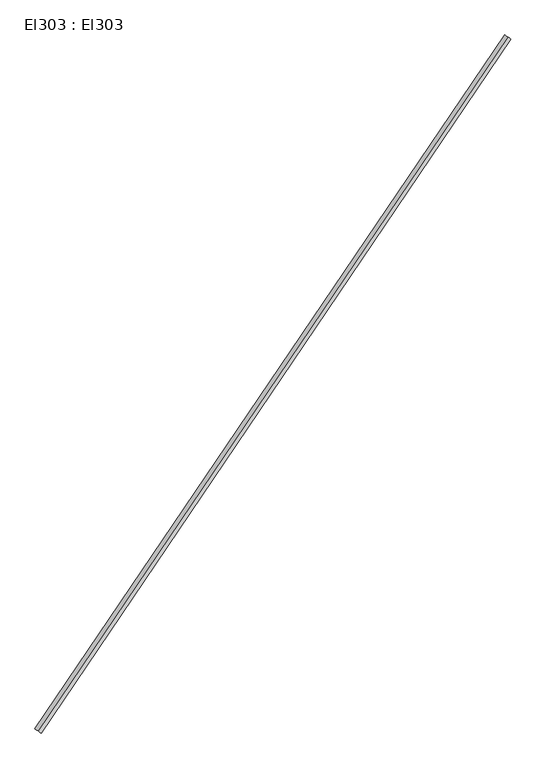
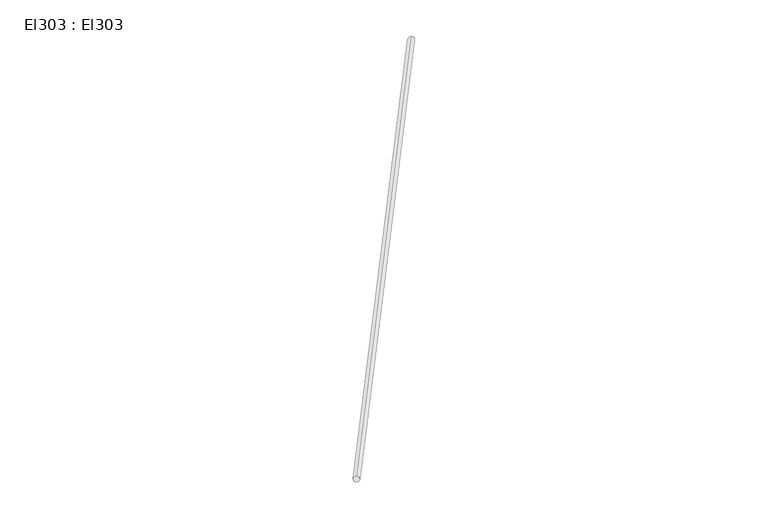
"""IFC4 building model written with IfcOpenShell, lengths in millimetres: cable carrier segment geometry, El303 : El303."""

from ifc_helpers import new_model, si_unit, point, frame, frame_2d, origin, place, context, project, spatial, circle_curve, trimmed, segment, composite_curve, outline, extrude, source, transform, mapped, element, save


def el303_el303_ab3e20a4(model_context):
    return source(origin(), model_context, "Body", "SweptSolid", [
        extrude(outline(composite_curve([segment(trimmed(circle_curve(frame_2d((0.0, -9.5)), 9.5), [point((0.0, -19.0))], [point((0.0, 0.0))], False, "CARTESIAN"), True, "CONTINUOUS"), segment(trimmed(circle_curve(frame_2d((0.0, -9.5)), 9.5), [point((0.0, 0.0))], [point((0.0, -19.0))], False, "CARTESIAN"), True, "CONTINUOUS")], self_intersect=False)), frame((18601.633, 14766.282, 2959.5), z_axis=(0.5605259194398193, 0.8281368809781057, 0.0), x_axis=(-0.8281368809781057, 0.5605259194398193, 0.0)), (0.0, 0.0, 1.0), 2075.79),
    ])


if __name__ == "__main__":
    model = new_model("IFC4")
    model_context = context("Model", 3, world=origin())
    ifc_project = project(units=[si_unit("LENGTHUNIT", "METRE", prefix="MILLI")], contexts=[model_context])
    site = spatial("IfcSite", under=ifc_project)
    building = spatial("IfcBuilding", under=site)
    placement = place(None, origin())
    el303_el303_shape = el303_el303_ab3e20a4(model_context)
    element("IfcCableCarrierSegment", 1, ObjectType="El303 : El303", at=placement, inside=building, context=model_context, shape_type="MappedRepresentation", body=[
        mapped(el303_el303_shape, transform((0.0, 0.0, 0.0), x_axis=(1.0, 0.0, 0.0), y_axis=(0.0, 1.0, 0.0), z_axis=(0.0, 0.0, 1.0))),
    ])
    save(model, "model.ifc")
